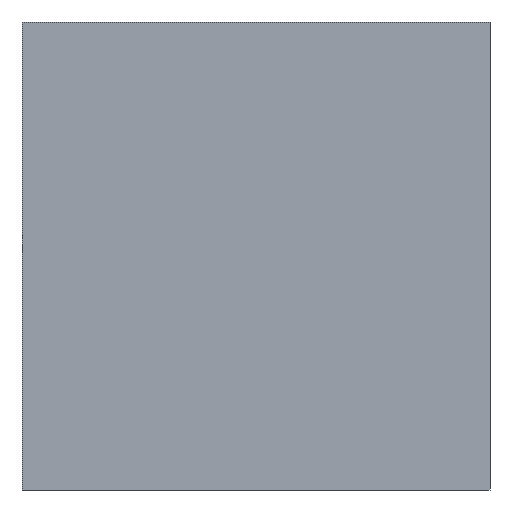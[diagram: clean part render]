
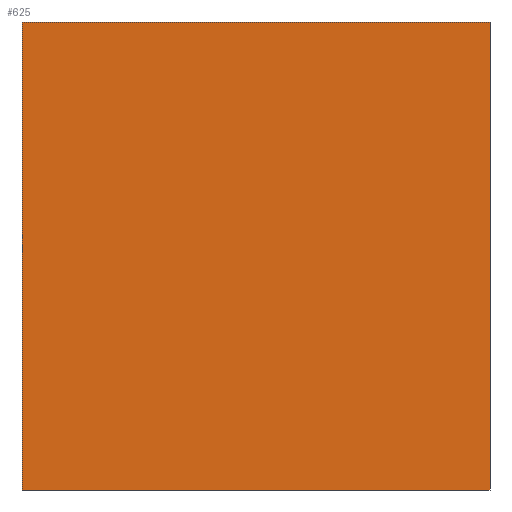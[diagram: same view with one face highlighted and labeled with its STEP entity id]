
A CAD part, front view. The second image highlights one B-rep face of the part: STEP entity #625.
In plain terms, the highlighted planar face has unit normal (0, -1, 0).
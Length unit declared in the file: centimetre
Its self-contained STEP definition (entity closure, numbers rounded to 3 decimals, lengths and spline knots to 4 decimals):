
#12 = VECTOR ( 'NONE', #307, 100. ) ;
#64 = LINE ( 'NONE', #604, #12 ) ;
#94 = VECTOR ( 'NONE', #697, 100. ) ;
#129 = CARTESIAN_POINT ( 'NONE',  ( 0., 0., 1000. ) ) ;
#134 = LINE ( 'NONE', #831, #560 ) ;
#145 = CARTESIAN_POINT ( 'NONE',  ( 0., 0., 1000. ) ) ;
#156 = PLANE ( 'NONE',  #313 ) ;
#176 = EDGE_CURVE ( 'NONE', #410, #652, #249, .T. ) ;
#217 = DIRECTION ( 'NONE',  ( 0., 0., -1. ) ) ;
#249 = LINE ( 'NONE', #946, #94 ) ;
#266 = EDGE_LOOP ( 'NONE', ( #335, #728, #817, #511 ) ) ;
#307 = DIRECTION ( 'NONE',  ( 1., 0., 0. ) ) ;
#313 = AXIS2_PLACEMENT_3D ( 'NONE', #749, #726, #887 ) ;
#335 = ORIENTED_EDGE ( 'NONE', *, *, #387, .T. ) ;
#387 = EDGE_CURVE ( 'NONE', #739, #652, #64, .T. ) ;
#405 = EDGE_CURVE ( 'NONE', #712, #739, #933, .T. ) ;
#410 = VERTEX_POINT ( 'NONE', #835 ) ;
#439 = CARTESIAN_POINT ( 'NONE',  ( 1000., 0., 0. ) ) ;
#511 = ORIENTED_EDGE ( 'NONE', *, *, #405, .T. ) ;
#535 = FACE_OUTER_BOUND ( 'NONE', #266, .T. ) ;
#560 = VECTOR ( 'NONE', #780, 100. ) ;
#604 = CARTESIAN_POINT ( 'NONE',  ( 0., 0., 0. ) ) ;
#625 = ADVANCED_FACE ( 'NONE', ( #535 ), #156, .F. ) ;
#652 = VERTEX_POINT ( 'NONE', #439 ) ;
#665 = CARTESIAN_POINT ( 'NONE',  ( 0., 0., 0. ) ) ;
#697 = DIRECTION ( 'NONE',  ( 0., 0., -1. ) ) ;
#712 = VERTEX_POINT ( 'NONE', #129 ) ;
#726 = DIRECTION ( 'NONE',  ( 0., 1., 0. ) ) ;
#728 = ORIENTED_EDGE ( 'NONE', *, *, #176, .F. ) ;
#739 = VERTEX_POINT ( 'NONE', #665 ) ;
#749 = CARTESIAN_POINT ( 'NONE',  ( 0., 0., 1000. ) ) ;
#780 = DIRECTION ( 'NONE',  ( 1., 0., 0. ) ) ;
#817 = ORIENTED_EDGE ( 'NONE', *, *, #865, .F. ) ;
#831 = CARTESIAN_POINT ( 'NONE',  ( 0., 0., 1000. ) ) ;
#835 = CARTESIAN_POINT ( 'NONE',  ( 1000., 0., 1000. ) ) ;
#865 = EDGE_CURVE ( 'NONE', #712, #410, #134, .T. ) ;
#887 = DIRECTION ( 'NONE',  ( 0., 0., 1. ) ) ;
#933 = LINE ( 'NONE', #145, #1002 ) ;
#946 = CARTESIAN_POINT ( 'NONE',  ( 1000., 0., 1000. ) ) ;
#1002 = VECTOR ( 'NONE', #217, 100. ) ;
